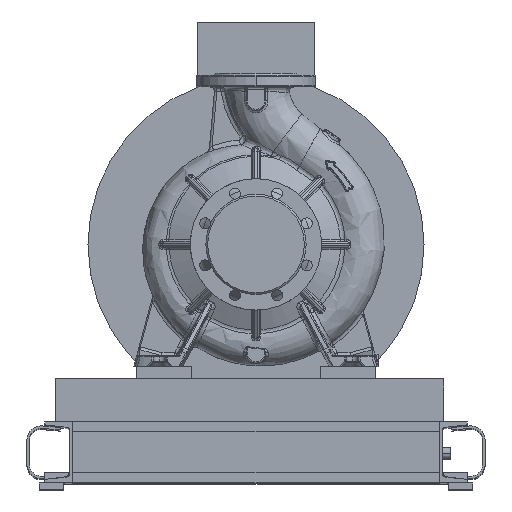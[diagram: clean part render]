
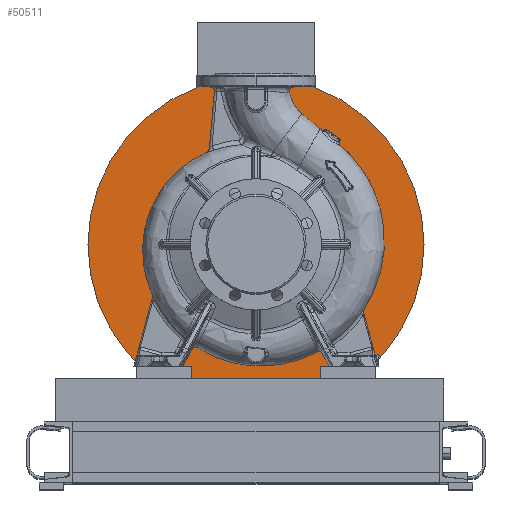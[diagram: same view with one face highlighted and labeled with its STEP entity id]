
A CAD part, top view. The second image highlights one B-rep face of the part: STEP entity #50511.
In plain terms, the highlighted planar face has unit normal (0, 0, 1).
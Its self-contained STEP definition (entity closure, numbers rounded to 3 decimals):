
#4753 = DIRECTION ( 'NONE',  ( 1., 0., 0. ) ) ;
#5353 = VERTEX_POINT ( 'NONE', #20932 ) ;
#6659 = ORIENTED_EDGE ( 'NONE', *, *, #23243, .F. ) ;
#9802 = AXIS2_PLACEMENT_3D ( 'NONE', #25219, #38707, #63590 ) ;
#10873 = EDGE_LOOP ( 'NONE', ( #6659, #24367 ) ) ;
#11073 = VERTEX_POINT ( 'NONE', #15794 ) ;
#14812 = AXIS2_PLACEMENT_3D ( 'NONE', #62833, #63421, #50548 ) ;
#15558 = ORIENTED_EDGE ( 'NONE', *, *, #22603, .T. ) ;
#15794 = CARTESIAN_POINT ( 'NONE',  ( 275., 0., -274.8 ) ) ;
#16238 = FACE_OUTER_BOUND ( 'NONE', #23042, .T. ) ;
#20932 = CARTESIAN_POINT ( 'NONE',  ( -125., 0., -274.8 ) ) ;
#21608 = CARTESIAN_POINT ( 'NONE',  ( 0., 0., -274.8 ) ) ;
#22603 = EDGE_CURVE ( 'NONE', #11073, #56498, #37816, .T. ) ;
#23042 = EDGE_LOOP ( 'NONE', ( #15558, #67020 ) ) ;
#23237 = CARTESIAN_POINT ( 'NONE',  ( -275., 0., -274.8 ) ) ;
#23243 = EDGE_CURVE ( 'NONE', #58276, #5353, #41874, .T. ) ;
#24367 = ORIENTED_EDGE ( 'NONE', *, *, #51611, .F. ) ;
#25219 = CARTESIAN_POINT ( 'NONE',  ( 0., 125., -274.8 ) ) ;
#26774 = AXIS2_PLACEMENT_3D ( 'NONE', #76418, #36895, #4753 ) ;
#28157 = DIRECTION ( 'NONE',  ( 0., 0., 1. ) ) ;
#31686 = AXIS2_PLACEMENT_3D ( 'NONE', #21608, #28157, #74036 ) ;
#36895 = DIRECTION ( 'NONE',  ( 0., 0., 1. ) ) ;
#37816 = CIRCLE ( 'NONE', #26774, 275. ) ;
#38707 = DIRECTION ( 'NONE',  ( 0., 0., -1. ) ) ;
#41874 = CIRCLE ( 'NONE', #59774, 125. ) ;
#45015 = FACE_BOUND ( 'NONE', #10873, .T. ) ;
#46601 = CARTESIAN_POINT ( 'NONE',  ( 0., 0., -274.8 ) ) ;
#50511 = ADVANCED_FACE ( 'NONE', ( #45015, #16238 ), #84247, .F. ) ;
#50548 = DIRECTION ( 'NONE',  ( 1., 0., 0. ) ) ;
#51611 = EDGE_CURVE ( 'NONE', #5353, #58276, #64345, .T. ) ;
#53717 = DIRECTION ( 'NONE',  ( 0., 0., 1. ) ) ;
#56498 = VERTEX_POINT ( 'NONE', #23237 ) ;
#58276 = VERTEX_POINT ( 'NONE', #60941 ) ;
#58498 = EDGE_CURVE ( 'NONE', #56498, #11073, #80349, .T. ) ;
#59774 = AXIS2_PLACEMENT_3D ( 'NONE', #46601, #53717, #72070 ) ;
#60941 = CARTESIAN_POINT ( 'NONE',  ( 125., 0., -274.8 ) ) ;
#62833 = CARTESIAN_POINT ( 'NONE',  ( 0., 0., -274.8 ) ) ;
#63421 = DIRECTION ( 'NONE',  ( 0., 0., 1. ) ) ;
#63590 = DIRECTION ( 'NONE',  ( -1., 0., 0. ) ) ;
#64345 = CIRCLE ( 'NONE', #14812, 125. ) ;
#67020 = ORIENTED_EDGE ( 'NONE', *, *, #58498, .T. ) ;
#72070 = DIRECTION ( 'NONE',  ( 1., 0., 0. ) ) ;
#74036 = DIRECTION ( 'NONE',  ( 1., 0., 0. ) ) ;
#76418 = CARTESIAN_POINT ( 'NONE',  ( 0., 0., -274.8 ) ) ;
#80349 = CIRCLE ( 'NONE', #31686, 275. ) ;
#84247 = PLANE ( 'NONE',  #9802 ) ;
